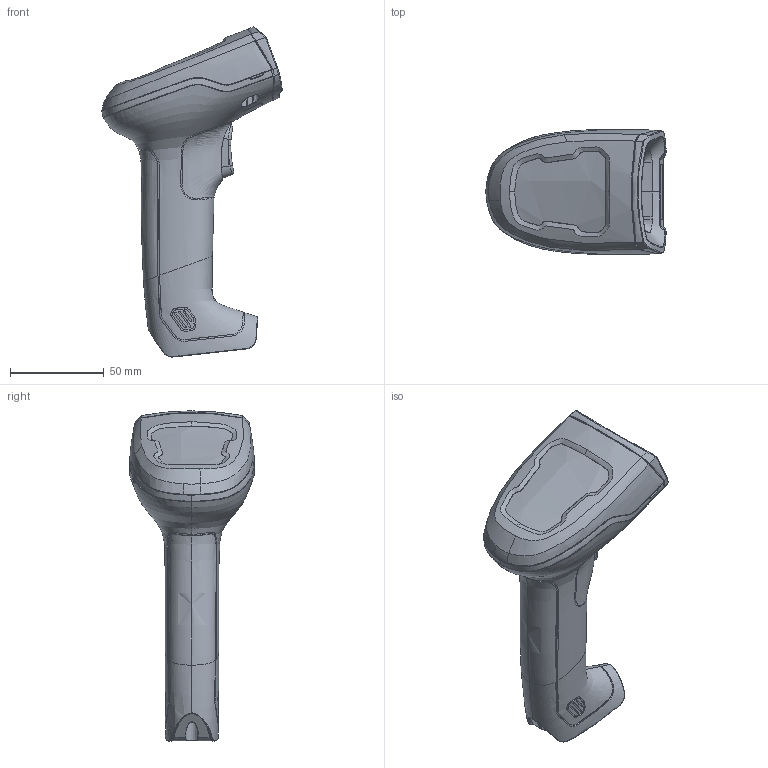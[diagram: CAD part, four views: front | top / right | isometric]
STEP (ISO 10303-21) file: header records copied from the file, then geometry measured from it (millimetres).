
FILE_DESCRIPTION((''),'2;1');
FILE_NAME('DE-12-002798','2025-07-07T15:19:08',('qinyangfan'),(''),'CREO PARAMETRIC BY PTC INC, 2020044','CREO PARAMETRIC BY PTC INC, 2020044','');
FILE_SCHEMA(('CONFIG_CONTROL_DESIGN'));
Products named in the file (1): DE-12-002798
Bounding box: 96.15 x 66.52 x 176.01 mm (x, y, z)
Volume: 253306.6 mm3; surface area: 75647.8 mm2
Topology: 1 solids, 22 shells, 3351 faces, 9517 edges, 6198 vertices
Faces by surface type: plane 1508, bspline 1124, cylinder 337, extrusion 214, cone 139, torus 24, sphere 4, revolution 1
Entity records: 219188 total; most frequent: CARTESIAN_POINT 146086, ORIENTED_EDGE 19012, EDGE_CURVE 9512, DIRECTION 8884, VERTEX_POINT 6197, B_SPLINE_CURVE_WITH_KNOTS 5618, VECTOR 3789, LINE 3575
